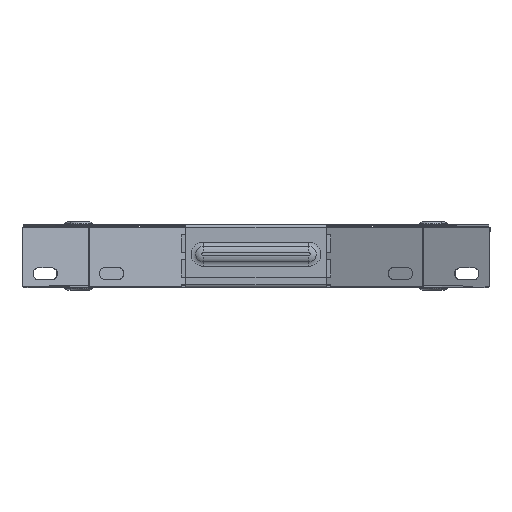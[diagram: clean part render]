
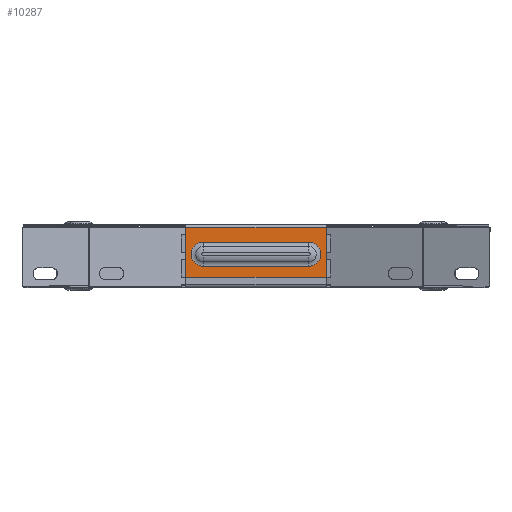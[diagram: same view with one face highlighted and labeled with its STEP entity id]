
A CAD part, top view. The second image highlights one B-rep face of the part: STEP entity #10287.
In plain terms, the highlighted planar face has unit normal (0, 0, 1).
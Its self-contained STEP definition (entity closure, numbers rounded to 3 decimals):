
#92 = CARTESIAN_POINT ( 'NONE',  ( 40., 5.8, 1.445 ) ) ;
#209 = EDGE_LOOP ( 'NONE', ( #8228, #14858, #4056, #9629 ) ) ;
#230 = CIRCLE ( 'NONE', #2999, 6.917 ) ;
#551 = DIRECTION ( 'NONE',  ( 1., 0., 0. ) ) ;
#609 = CARTESIAN_POINT ( 'NONE',  ( 30., 18.9, 1.445 ) ) ;
#701 = ORIENTED_EDGE ( 'NONE', *, *, #964, .T. ) ;
#964 = EDGE_CURVE ( 'NONE', #9347, #4993, #11151, .T. ) ;
#973 = ORIENTED_EDGE ( 'NONE', *, *, #5903, .T. ) ;
#995 = DIRECTION ( 'NONE',  ( 0., 0., -1. ) ) ;
#1711 = AXIS2_PLACEMENT_3D ( 'NONE', #609, #15003, #13857 ) ;
#1739 = DIRECTION ( 'NONE',  ( 0., 0., -1. ) ) ;
#1757 = DIRECTION ( 'NONE',  ( 0., -1., 0. ) ) ;
#2010 = DIRECTION ( 'NONE',  ( 0., 1., 0. ) ) ;
#2100 = VERTEX_POINT ( 'NONE', #92 ) ;
#2194 = LINE ( 'NONE', #12730, #15046 ) ;
#2999 = AXIS2_PLACEMENT_3D ( 'NONE', #11609, #995, #2010 ) ;
#3025 = CARTESIAN_POINT ( 'NONE',  ( 0., 35.8, 1.445 ) ) ;
#3189 = EDGE_CURVE ( 'NONE', #9093, #9347, #9029, .T. ) ;
#3795 = EDGE_CURVE ( 'NONE', #4487, #2100, #11611, .T. ) ;
#4042 = ORIENTED_EDGE ( 'NONE', *, *, #3189, .T. ) ;
#4056 = ORIENTED_EDGE ( 'NONE', *, *, #3795, .T. ) ;
#4158 = LINE ( 'NONE', #13632, #10283 ) ;
#4373 = CARTESIAN_POINT ( 'NONE',  ( 40., 5.8, 1.445 ) ) ;
#4487 = VERTEX_POINT ( 'NONE', #13303 ) ;
#4524 = VERTEX_POINT ( 'NONE', #8986 ) ;
#4546 = CARTESIAN_POINT ( 'NONE',  ( 30., 11.983, 1.445 ) ) ;
#4671 = DIRECTION ( 'NONE',  ( -1., 0., 0. ) ) ;
#4993 = VERTEX_POINT ( 'NONE', #4546 ) ;
#5488 = DIRECTION ( 'NONE',  ( 0., 1., 0. ) ) ;
#5903 = EDGE_CURVE ( 'NONE', #4993, #8170, #9122, .T. ) ;
#5952 = VECTOR ( 'NONE', #4671, 1000. ) ;
#6224 = EDGE_CURVE ( 'NONE', #4524, #4487, #9761, .T. ) ;
#6973 = EDGE_CURVE ( 'NONE', #8170, #9093, #230, .T. ) ;
#7368 = FACE_BOUND ( 'NONE', #9502, .T. ) ;
#7873 = PLANE ( 'NONE',  #12724 ) ;
#8170 = VERTEX_POINT ( 'NONE', #9733 ) ;
#8228 = ORIENTED_EDGE ( 'NONE', *, *, #9803, .F. ) ;
#8986 = CARTESIAN_POINT ( 'NONE',  ( -40., 34., 1.445 ) ) ;
#9029 = LINE ( 'NONE', #12193, #12194 ) ;
#9093 = VERTEX_POINT ( 'NONE', #12840 ) ;
#9122 = LINE ( 'NONE', #14146, #5952 ) ;
#9347 = VERTEX_POINT ( 'NONE', #11126 ) ;
#9502 = EDGE_LOOP ( 'NONE', ( #4042, #701, #973, #10400 ) ) ;
#9629 = ORIENTED_EDGE ( 'NONE', *, *, #15169, .T. ) ;
#9643 = DIRECTION ( 'NONE',  ( 1., 0., 0. ) ) ;
#9666 = CARTESIAN_POINT ( 'NONE',  ( 40., 34., 1.445 ) ) ;
#9733 = CARTESIAN_POINT ( 'NONE',  ( -30., 11.983, 1.445 ) ) ;
#9761 = LINE ( 'NONE', #13633, #11431 ) ;
#9803 = EDGE_CURVE ( 'NONE', #4524, #11178, #4158, .T. ) ;
#10283 = VECTOR ( 'NONE', #551, 1000. ) ;
#10287 = ADVANCED_FACE ( 'NONE', ( #7368, #15257 ), #7873, .F. ) ;
#10400 = ORIENTED_EDGE ( 'NONE', *, *, #6973, .T. ) ;
#11126 = CARTESIAN_POINT ( 'NONE',  ( 30., 25.817, 1.445 ) ) ;
#11151 = CIRCLE ( 'NONE', #1711, 6.917 ) ;
#11178 = VERTEX_POINT ( 'NONE', #9666 ) ;
#11356 = DIRECTION ( 'NONE',  ( 0., 1., 0. ) ) ;
#11431 = VECTOR ( 'NONE', #1757, 1000. ) ;
#11476 = DIRECTION ( 'NONE',  ( 1., 0., 0. ) ) ;
#11609 = CARTESIAN_POINT ( 'NONE',  ( -30., 18.9, 1.445 ) ) ;
#11611 = LINE ( 'NONE', #4373, #14439 ) ;
#12193 = CARTESIAN_POINT ( 'NONE',  ( 30., 25.817, 1.445 ) ) ;
#12194 = VECTOR ( 'NONE', #9643, 1000. ) ;
#12724 = AXIS2_PLACEMENT_3D ( 'NONE', #3025, #1739, #11356 ) ;
#12730 = CARTESIAN_POINT ( 'NONE',  ( 40., 35., 1.445 ) ) ;
#12840 = CARTESIAN_POINT ( 'NONE',  ( -30., 25.817, 1.445 ) ) ;
#13303 = CARTESIAN_POINT ( 'NONE',  ( -40., 5.8, 1.445 ) ) ;
#13632 = CARTESIAN_POINT ( 'NONE',  ( 0., 34., 1.445 ) ) ;
#13633 = CARTESIAN_POINT ( 'NONE',  ( -40., 5.8, 1.445 ) ) ;
#13857 = DIRECTION ( 'NONE',  ( 0., 1., 0. ) ) ;
#14146 = CARTESIAN_POINT ( 'NONE',  ( 30., 11.983, 1.445 ) ) ;
#14439 = VECTOR ( 'NONE', #11476, 1000. ) ;
#14858 = ORIENTED_EDGE ( 'NONE', *, *, #6224, .T. ) ;
#15003 = DIRECTION ( 'NONE',  ( 0., 0., -1. ) ) ;
#15046 = VECTOR ( 'NONE', #5488, 1000. ) ;
#15169 = EDGE_CURVE ( 'NONE', #2100, #11178, #2194, .T. ) ;
#15257 = FACE_OUTER_BOUND ( 'NONE', #209, .T. ) ;
